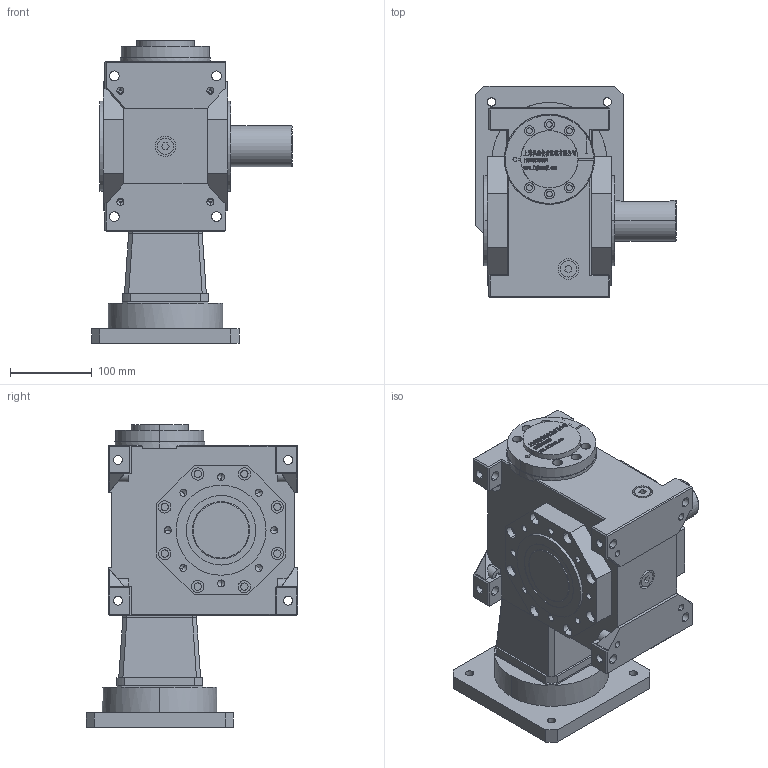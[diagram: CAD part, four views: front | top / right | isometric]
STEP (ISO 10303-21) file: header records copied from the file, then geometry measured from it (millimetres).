
FILE_DESCRIPTION (( 'STEP AP203' ), '1' );
FILE_NAME ('FXLB075-(5~90)-ASR-35-114.3-200-M12.step', '2022-11-06T06:47:48', ( '' ), ( '' ), 'SwSTEP 2.0', 'SolidWorks 2020', '' );
FILE_SCHEMA (( 'CONFIG_CONTROL_DESIGN' ));
Length unit declared in the file: millimetre
Products named in the file (8): ______BD68-73.3-24-35____.step; JDLB075-ASR________50.step; JDLB075-ST105________1.step; FXLB075-(5~90)-ASR-35-114.3-200-M12; FXLB075-(5~90)-ASR-35-114.3-200-M12.step; JDLB075-CR____.step; 錨璃375^FXLB075-(5~90)-ASR-35-114.3-200-M12; ST180-114.3-200-M12____________075.step
Assembly tree (7 placements, depth 3):
  FXLB075-(5~90)-ASR-35-114.3-200-M12
    FXLB075-(5~90)-ASR-35-114.3-200-M12.step
      JDLB075-CR____.step
      JDLB075-ST105________1.step
      JDLB075-ASR________50.step
      ST180-114.3-200-M12____________075.step
      ______BD68-73.3-24-35____.step
    錨璃375^FXLB075-(5~90)-ASR-35-114.3-200-M12
Bounding box: 245 x 259 x 370.2 mm (x, y, z)
Volume: 7683408 mm3; surface area: 646722.6 mm2
Topology: 82 solids, 82 shells, 2694 faces, 7045 edges, 4599 vertices
Faces by surface type: plane 1554, bspline 572, cylinder 454, cone 96, torus 18
Entity records: 113478 total; most frequent: CARTESIAN_POINT 49792, ORIENTED_EDGE 13966, DIRECTION 10989, EDGE_CURVE 6983, LINE 4755, VECTOR 4755, VERTEX_POINT 4599, AXIS2_PLACEMENT_3D 3117
